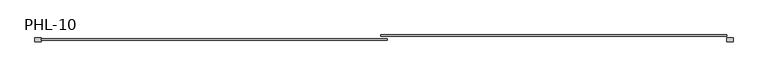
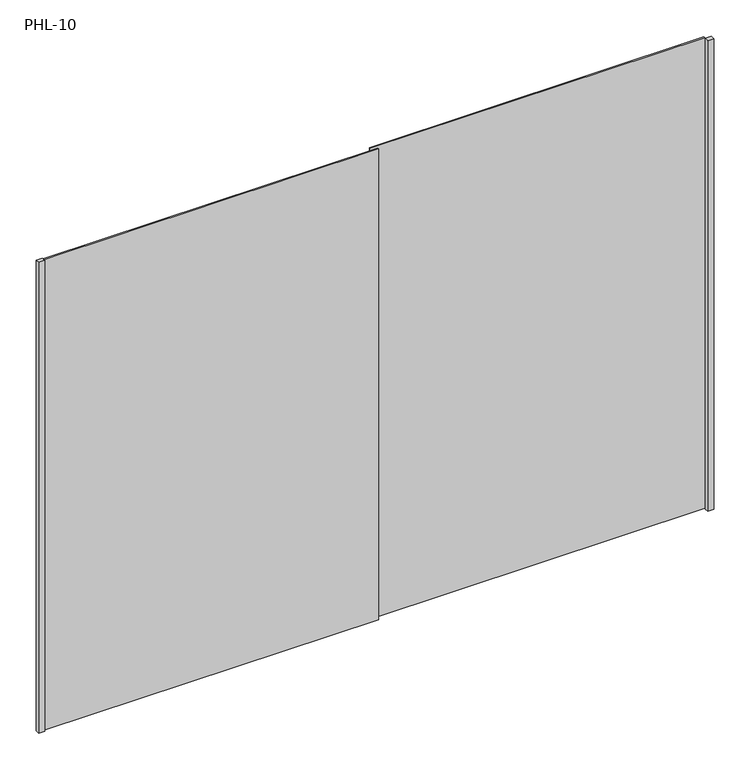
"""IFC4 building model written with IfcOpenShell, lengths in millimetres: furniture geometry, Puerta Closet corre 2 hojas : PHL-10."""

from ifc_helpers import new_model, si_unit, origin, origin_with_axes, place, context, project, spatial, polyline, outline, extrude, source, transform, mapped, element, save


def phl_10_724c5383(model_context):
    return source(origin(), model_context, "Body", "SweptSolid", [
        extrude(outline(polyline([(1170.0, 80.0), (1140.0, 80.0), (1140.0, 100.0), (1170.0, 100.0), (1170.0, 80.0)])), origin_with_axes(), (0.0, 0.0, 1.0), 2520.0),
        extrude(outline(polyline([(1140.0, 106.6666667), (-555.0, 106.6666667), (-555.0, 113.3333333), (1140.0, 113.3333333), (1140.0, 106.6666667)])), origin_with_axes(), (0.0, 0.0, 1.0), 2520.0),
        extrude(outline(polyline([(-525.0, 86.6666667), (-2220.0, 86.6666667), (-2220.0, 93.3333333), (-525.0, 93.3333333), (-525.0, 86.6666667)])), origin_with_axes(), (0.0, 0.0, 1.0), 2520.0),
        extrude(outline(polyline([(-2250.0, 80.0), (-2250.0, 100.0), (-2220.0, 100.0), (-2220.0, 80.0), (-2250.0, 80.0)])), origin_with_axes(), (0.0, 0.0, 1.0), 2520.0),
    ])


if __name__ == "__main__":
    model = new_model("IFC4")
    model_context = context("Model", 3, world=origin())
    ifc_project = project(units=[si_unit("LENGTHUNIT", "METRE", prefix="MILLI")], contexts=[model_context])
    site = spatial("IfcSite", under=ifc_project)
    building = spatial("IfcBuilding", under=site)
    placement = place(None, origin())
    phl_10_shape = phl_10_724c5383(model_context)
    element("IfcFurniture", 1, ObjectType="Puerta Closet corre 2 hojas : PHL-10", at=placement, inside=building, context=model_context, shape_type="MappedRepresentation", body=[
        mapped(phl_10_shape, transform((0.0, 0.0, 0.0), x_axis=(1.0, 0.0, 0.0), y_axis=(0.0, 1.0, 0.0), z_axis=(0.0, 0.0, 1.0))),
    ])
    save(model, "model.ifc")
